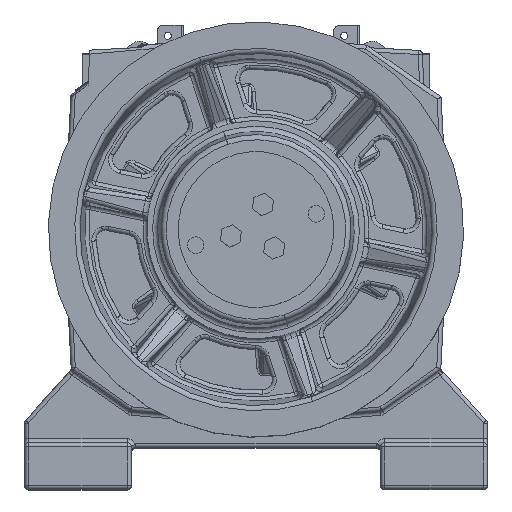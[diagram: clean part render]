
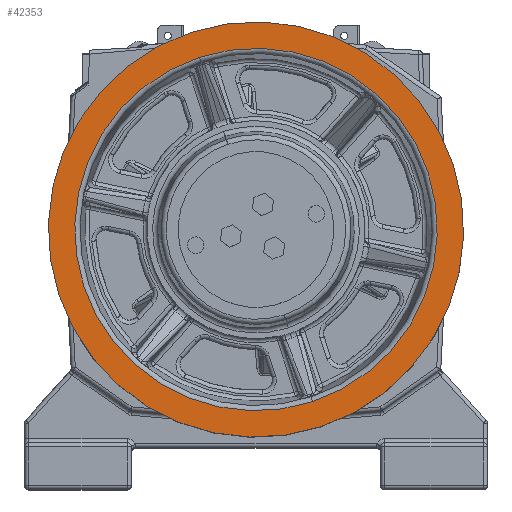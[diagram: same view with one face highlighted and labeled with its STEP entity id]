
A CAD part, top view. The second image highlights one B-rep face of the part: STEP entity #42353.
In plain terms, the highlighted planar face has unit normal (0, 0, 1).
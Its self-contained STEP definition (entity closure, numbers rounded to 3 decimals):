
#6917 = AXIS2_PLACEMENT_3D ( 'NONE', #65855, #110911, #53672 ) ;
#12020 = AXIS2_PLACEMENT_3D ( 'NONE', #39715, #28983, #43225 ) ;
#14358 = CIRCLE ( 'NONE', #55372, 200. ) ;
#17008 = VERTEX_POINT ( 'NONE', #123513 ) ;
#17491 = EDGE_CURVE ( 'NONE', #118380, #109295, #134680, .T. ) ;
#20886 = ORIENTED_EDGE ( 'NONE', *, *, #63668, .T. ) ;
#25383 = CARTESIAN_POINT ( 'NONE',  ( -148.717, 13.144, 1180.906 ) ) ;
#28983 = DIRECTION ( 'NONE',  ( 0., 0., -1. ) ) ;
#33380 = VERTEX_POINT ( 'NONE', #69211 ) ;
#34482 = EDGE_LOOP ( 'NONE', ( #103454, #109222 ) ) ;
#39715 = CARTESIAN_POINT ( 'NONE',  ( -148.717, 13.144, 1180.906 ) ) ;
#41152 = CIRCLE ( 'NONE', #6917, 174.582 ) ;
#42353 = ADVANCED_FACE ( 'NONE', ( #60783, #138809 ), #61499, .T. ) ;
#43225 = DIRECTION ( 'NONE',  ( -0.312, 0.95, 0. ) ) ;
#53672 = DIRECTION ( 'NONE',  ( -0.312, 0.95, 0. ) ) ;
#55372 = AXIS2_PLACEMENT_3D ( 'NONE', #25383, #101200, #79034 ) ;
#56569 = CARTESIAN_POINT ( 'NONE',  ( -86.234, -176.845, 1180.906 ) ) ;
#56910 = AXIS2_PLACEMENT_3D ( 'NONE', #117499, #84601, #96008 ) ;
#59794 = CARTESIAN_POINT ( 'NONE',  ( -211.2, 203.133, 1180.906 ) ) ;
#60783 = FACE_BOUND ( 'NONE', #132281, .T. ) ;
#61499 = PLANE ( 'NONE',  #124766 ) ;
#63668 = EDGE_CURVE ( 'NONE', #33380, #17008, #41152, .T. ) ;
#65855 = CARTESIAN_POINT ( 'NONE',  ( -148.717, 13.144, 1180.906 ) ) ;
#69211 = CARTESIAN_POINT ( 'NONE',  ( -94.175, -152.699, 1180.906 ) ) ;
#79034 = DIRECTION ( 'NONE',  ( 0.312, -0.95, 0. ) ) ;
#83021 = DIRECTION ( 'NONE',  ( 0., 0., 1. ) ) ;
#84601 = DIRECTION ( 'NONE',  ( 0., 0., -1. ) ) ;
#87392 = ORIENTED_EDGE ( 'NONE', *, *, #125006, .T. ) ;
#96008 = DIRECTION ( 'NONE',  ( 0.312, -0.95, 0. ) ) ;
#101133 = CIRCLE ( 'NONE', #12020, 174.582 ) ;
#101200 = DIRECTION ( 'NONE',  ( 0., 0., -1. ) ) ;
#103454 = ORIENTED_EDGE ( 'NONE', *, *, #17491, .F. ) ;
#105865 = CARTESIAN_POINT ( 'NONE',  ( -310.208, -39.966, 1180.906 ) ) ;
#109222 = ORIENTED_EDGE ( 'NONE', *, *, #125129, .F. ) ;
#109295 = VERTEX_POINT ( 'NONE', #59794 ) ;
#110911 = DIRECTION ( 'NONE',  ( 0., 0., -1. ) ) ;
#117499 = CARTESIAN_POINT ( 'NONE',  ( -148.717, 13.144, 1180.906 ) ) ;
#118380 = VERTEX_POINT ( 'NONE', #56569 ) ;
#123513 = CARTESIAN_POINT ( 'NONE',  ( -203.259, 178.987, 1180.906 ) ) ;
#124766 = AXIS2_PLACEMENT_3D ( 'NONE', #105865, #83021, #126642 ) ;
#125006 = EDGE_CURVE ( 'NONE', #17008, #33380, #101133, .T. ) ;
#125129 = EDGE_CURVE ( 'NONE', #109295, #118380, #14358, .T. ) ;
#126642 = DIRECTION ( 'NONE',  ( -0.312, 0.95, 0. ) ) ;
#132281 = EDGE_LOOP ( 'NONE', ( #87392, #20886 ) ) ;
#134680 = CIRCLE ( 'NONE', #56910, 200. ) ;
#138809 = FACE_OUTER_BOUND ( 'NONE', #34482, .T. ) ;
